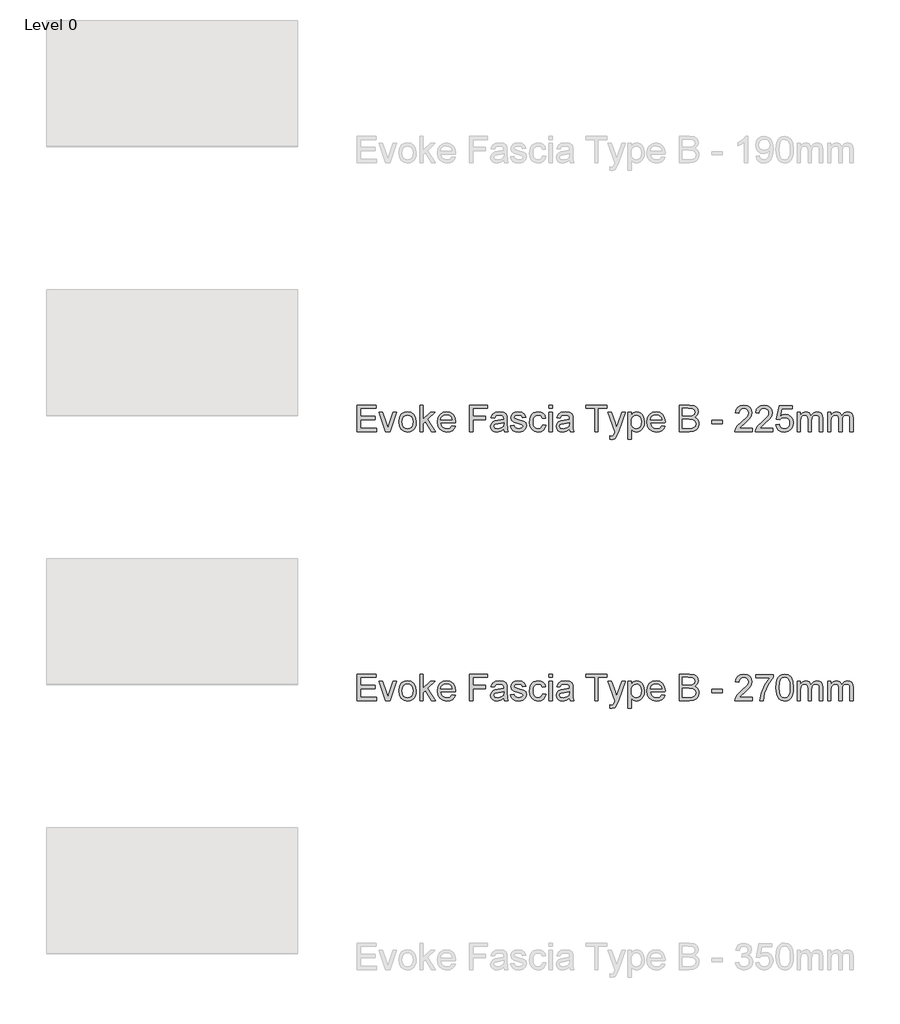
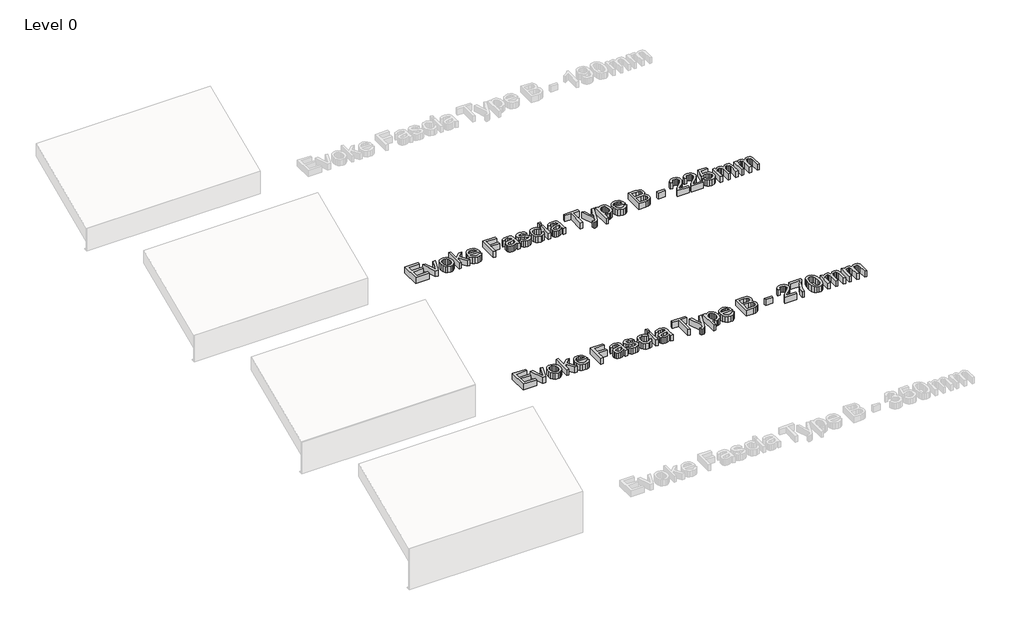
# One storey, part 9 of 13: 2 proxies.
"""IFC4 building model written with IfcOpenShell, lengths in millimetres."""

import ifcopenshell
import ifcopenshell.guid

model = None  # the IFC model being written
_history = None  # IfcOwnerHistory: only IFC2X3 demands one
_inside = {}  # id of a spatial element -> (the spatial element, [elements in it])
_under = {}  # id of a project, library or spatial element -> (it, [spatial elements below it])
_declared = {}  # id of a project -> (the project, [libraries it declares])
_typed = {}  # id of a type object -> (the type object, [elements of that type])
_made_of = {}  # id of a material, layer set ... -> (it, [elements and type objects made of it])


def new_model(schema):
    """Start an empty IFC model of exactly this schema.

    Asked for "IFC4X3", IfcOpenShell would pick the latest addendum, in which some entities
    have other attributes; the version numbers below select the first issue.
    IFC2X3 requires an IfcOwnerHistory on every rooted entity: one is made here for all.
    """
    global model, _history
    if schema == "IFC4X3":
        model = ifcopenshell.file(schema_version=(4, 3, 0, 0))
    else:
        model = ifcopenshell.file(schema=schema)
    _inside.clear()
    _under.clear()
    _declared.clear()
    _typed.clear()
    _made_of.clear()
    _history = None
    if model.schema == "IFC2X3":
        org = make("IfcOrganization", Name="unknown")
        user = make(
            "IfcPersonAndOrganization",
            ThePerson=make("IfcPerson", FamilyName="unknown"),
            TheOrganization=org,
        )
        app = make(
            "IfcApplication",
            ApplicationDeveloper=org,
            Version="unknown",
            ApplicationFullName="unknown",
            ApplicationIdentifier="unknown",
        )
        _history = make(
            "IfcOwnerHistory",
            OwningUser=user,
            OwningApplication=app,
            ChangeAction="ADDED",
            CreationDate=0,
        )
    return model


def make(cls, **values):
    """One entity of the class cls with the attributes given. An attribute that is None is left unset."""
    return model.create_entity(
        cls, **{name: value for name, value in values.items() if value is not None}
    )


def rooted(cls, **values):
    """An entity with a GlobalId (a new one), such as an element, a storey or a relation."""
    return make(cls, GlobalId=ifcopenshell.guid.new(), OwnerHistory=_history, **values)


def si_unit(unit_type, name, prefix=None):
    """IfcSIUnit, for example si_unit("LENGTHUNIT", "METRE", prefix="MILLI")."""
    return make("IfcSIUnit", UnitType=unit_type, Prefix=prefix, Name=name)


def assignment(units):
    """IfcUnitAssignment: the units of a project."""
    return None if units is None else make("IfcUnitAssignment", Units=units)


def point(xyz):
    """IfcCartesianPoint."""
    return None if xyz is None else make("IfcCartesianPoint", Coordinates=xyz)


def direction(xyz):
    """IfcDirection."""
    return None if xyz is None else make("IfcDirection", DirectionRatios=xyz)


def frame(location, z_axis=None, x_axis=None):
    """IfcAxis2Placement3D, a coordinate frame: its origin and axes. An axis left out is left unset."""
    return make(
        "IfcAxis2Placement3D",
        Location=point(location),
        Axis=direction(z_axis),
        RefDirection=direction(x_axis),
    )


def origin():
    """The frame at (0, 0, 0) with its axes left unset."""
    return frame((0.0, 0.0, 0.0))


def origin_with_axes():
    """The frame at (0, 0, 0) with the z axis (0, 0, 1) and the x axis (1, 0, 0) written out."""
    return frame((0.0, 0.0, 0.0), z_axis=(0.0, 0.0, 1.0), x_axis=(1.0, 0.0, 0.0))


def place(relative_to, where):
    """IfcLocalPlacement: puts the frame where relative to a parent placement (None: the world)."""
    return make(
        "IfcLocalPlacement", PlacementRelTo=relative_to, RelativePlacement=where
    )


def context(
    kind, dimensions, precision=None, world=None, true_north=None, identifier=None
):
    """IfcGeometricRepresentationContext, for example the 3D "Model" context."""
    return make(
        "IfcGeometricRepresentationContext",
        ContextIdentifier=identifier,
        ContextType=kind,
        CoordinateSpaceDimension=dimensions,
        Precision=precision,
        WorldCoordinateSystem=world,
        TrueNorth=true_north,
    )


def project(units=None, contexts=None):
    """IfcProject with its units and contexts."""
    return rooted(
        "IfcProject",
        Name="project",
        RepresentationContexts=contexts,
        UnitsInContext=assignment(units),
    )


def spatial(cls, under=None, at=None, **own):
    """A site, building, storey or space (cls), placed at a placement, below another one or the project."""
    s = rooted(cls, ObjectPlacement=at, **own)
    if under is not None:
        _under.setdefault(under.id(), (under, []))[1].append(s)
    return s


def polyline(points):
    """IfcPolyline through the points."""
    return make("IfcPolyline", Points=[point(p) for p in points])


def outline(outer, holes=None, kind="AREA"):
    """IfcArbitraryClosedProfileDef: a profile drawn as a closed curve; with holes, ...WithVoids."""
    if holes is None:
        return make("IfcArbitraryClosedProfileDef", ProfileType=kind, OuterCurve=outer)
    return make(
        "IfcArbitraryProfileDefWithVoids",
        ProfileType=kind,
        OuterCurve=outer,
        InnerCurves=holes,
    )


def extrude(swept, where, along, depth):
    """IfcExtrudedAreaSolid: the profile swept, set in the frame where, extruded along a direction by depth."""
    return make(
        "IfcExtrudedAreaSolid",
        SweptArea=swept,
        Position=where,
        ExtrudedDirection=direction(along),
        Depth=depth,
    )


def shape(context_of_items, identifier, shape_type, items):
    """IfcShapeRepresentation: the items that make up one representation, for example the "Body"."""
    return make(
        "IfcShapeRepresentation",
        ContextOfItems=context_of_items,
        RepresentationIdentifier=identifier,
        RepresentationType=shape_type,
        Items=items,
    )


def made_of(thing, what):
    """Note that an element or type object is made of a material, layer set ...; save() writes the relation."""
    if what is not None:
        _made_of.setdefault(what.id(), (what, []))[1].append(thing)
    return thing


def element(
    cls,
    number,
    at=None,
    inside=None,
    cuts=None,
    type_object=None,
    material=None,
    context=None,
    identifier="Body",
    shape_type=None,
    held_by="IfcProductDefinitionShape",
    body=None,
    shapes=None,
    **own,
):
    """One element of the class cls, such as IfcWall. Its Tag is "e" and its number.

    at: its placement. inside: the storey or other place that contains it. cuts: it is an
    opening in that element (IfcRelVoidsElement). A single representation is given by context,
    identifier, shape_type and body (its items); several are given by shapes. held_by: the class
    of the entity that holds the representations. save() writes the other relations.
    """
    e = rooted(cls, Tag="e%d" % number, ObjectPlacement=at, **own)
    if body is not None:
        shapes = [shape(context, identifier, shape_type, body)]
    if shapes is not None:
        e.Representation = make(held_by, Representations=shapes)
    if inside is not None:
        _inside.setdefault(inside.id(), (inside, []))[1].append(e)
    if cuts is not None:
        rooted(
            "IfcRelVoidsElement", RelatingBuildingElement=cuts, RelatedOpeningElement=e
        )
    if type_object is not None:
        _typed.setdefault(type_object.id(), (type_object, []))[1].append(e)
    return made_of(e, material)


def aggregate(whole, parts):
    """IfcRelAggregates: a whole, such as a stair, and the parts it consists of."""
    return rooted("IfcRelAggregates", RelatingObject=whole, RelatedObjects=parts)


def save(model, path):
    """Write the relations noted so far, then the file.

    IfcRelAggregates (storeys below a building ...), IfcRelContainedInSpatialStructure (elements
    in a storey), IfcRelDefinesByType, IfcRelAssociatesMaterial and IfcRelDeclares: one each for
    every whole, place, type object, material and project.
    """
    for whole, parts in _under.values():
        aggregate(whole, parts)
    for where, things in _inside.values():
        rooted(
            "IfcRelContainedInSpatialStructure",
            RelatedElements=things,
            RelatingStructure=where,
        )
    for kind, things in _typed.values():
        rooted("IfcRelDefinesByType", RelatedObjects=things, RelatingType=kind)
    for what, things in _made_of.values():
        rooted("IfcRelAssociatesMaterial", RelatedObjects=things, RelatingMaterial=what)
    for by, libraries in _declared.values():
        rooted("IfcRelDeclares", RelatingContext=by, RelatedDefinitions=libraries)
    model.write(path)


model = new_model("IFC4")

# Units and contexts
model_context = context("Model", 3, world=origin())
ifc_project = project(units=[si_unit("LENGTHUNIT", "METRE", prefix="MILLI")], contexts=[model_context])

# Site, building, storey
site = spatial("IfcSite", under=ifc_project)
building = spatial("IfcBuilding", under=site)
storey = spatial("IfcBuildingStorey", under=building, Name="Level 0", Elevation=0.0)

# Proxies
placement = place(None, origin())
element("IfcBuildingElementProxy", 1, Name="150mm Arial", ObjectType="150mm Arial", at=placement, inside=storey, context=model_context, shape_type="SweptSolid", body=[
    extrude(outline(polyline([(5568.7201043, 4360.6682311), (5568.7201043, 4508.3605388), (5674.8739504, 4508.3605388), (5674.8739504, 4489.8990003), (5587.1816427, 4489.8990003), (5587.1816427, 4446.0528465), (5670.2585658, 4446.0528465), (5670.2585658, 4427.591308), (5587.1816427, 4427.591308), (5587.1816427, 4379.1297695), (5677.1816427, 4379.1297695), (5677.1816427, 4360.6682311), (5568.7201043, 4360.6682311)])), origin_with_axes(), (0.0, 0.0, 1.0), 50.0),
    extrude(outline(polyline([(5729.176835, 4360.6682311), (5691.0277966, 4469.1297695), (5710.5710658, 4469.1297695), (5733.6840466, 4404.153808), (5740.6431812, 4382.3028465), (5747.458085, 4402.9278465), (5770.7152966, 4469.1297695), (5790.2585658, 4469.1297695), (5752.5782774, 4360.6682311), (5729.176835, 4360.6682311)])), origin_with_axes(), (0.0, 0.0, 1.0), 50.0),
    extrude(outline(polyline([(5801.7970274, 4414.8990003), (5805.7904168, 4441.0498416), (5817.770585, 4459.4302503), (5832.5722677, 4468.435659), (5850.2946235, 4471.4374618), (5869.6891548, 4467.7821133), (5885.1804408, 4456.8160676), (5895.3351884, 4439.4047094), (5898.7201043, 4416.4134234), (5897.22371, 4397.762582), (5892.7345274, 4383.5648657), (5885.3832653, 4372.9323537), (5875.3006331, 4364.9771253), (5863.3249721, 4360.0146854), (5850.2946235, 4358.3605388), (5830.6657173, 4362.0023657), (5815.19246, 4372.9278465), (5805.1458855, 4390.7042888), (5801.7970274, 4414.8990003)]), holes=[polyline([(5820.2585658, 4414.935058), (5822.3949841, 4398.2268248), (5828.8042389, 4386.3232791), (5838.4496716, 4379.1973777), (5850.2946235, 4376.8220772), (5862.0854889, 4379.2108993), (5871.7128927, 4386.3773657), (5878.1221475, 4398.4386638), (5880.2585658, 4415.5119811), (5878.1086259, 4431.7334354), (5871.6588062, 4443.4747215), (5862.0178807, 4450.6006229), (5850.2946235, 4452.9759234), (5838.4496716, 4450.6096373), (5828.8042389, 4443.5107791), (5822.3949841, 4431.6342767), (5820.2585658, 4414.935058)])]), origin_with_axes(), (0.0, 0.0, 1.0), 50.0),
    extrude(outline(polyline([(5919.489335, 4360.6682311), (5919.489335, 4508.3605388), (5937.9508735, 4508.3605388), (5937.9508735, 4428.997558), (5979.3451043, 4469.1297695), (6004.8739504, 4469.1297695), (5962.974912, 4428.4927503), (6007.1816427, 4360.6682311), (5985.6191427, 4360.6682311), (5949.7417389, 4415.6562118), (5937.9508735, 4404.2259234), (5937.9508735, 4360.6682311), (5919.489335, 4360.6682311)])), origin_with_axes(), (0.0, 0.0, 1.0), 50.0),
    extrude(outline(polyline([(6099.2729889, 4392.9759234), (6117.3739504, 4390.6682311), (6110.8520153, 4377.029409), (6100.4448639, 4366.8340965), (6086.3868711, 4360.4789282), (6068.912412, 4358.3605388), (6047.2507533, 4362.0158873), (6030.583085, 4372.981933), (6019.9550802, 4390.5465364), (6016.412412, 4413.997558), (6019.9911379, 4438.2373416), (6030.7273158, 4456.3653465), (6047.1696235, 4467.669433), (6067.8667389, 4471.4374618), (6087.919323, 4467.6784474), (6103.94246, 4456.4014041), (6114.4487701, 4438.309457), (6117.9508735, 4414.1057311), (6117.8427004, 4409.1297695), (6034.8739504, 4409.1297695), (6038.0695634, 4395.310659), (6045.4929408, 4385.1514041), (6056.2065826, 4378.904409), (6069.2729889, 4376.8220772), (6087.3739504, 4380.6802503), (6099.2729889, 4392.9759234)]), holes=[polyline([(6034.8739504, 4427.591308), (6099.489335, 4427.591308), (6096.9923399, 4437.3449138), (6092.0975081, 4444.3220772), (6081.334287, 4450.8124618), (6067.7946235, 4452.9759234), (6055.3502124, 4451.2496614), (6045.0602485, 4446.0708753), (6037.9073038, 4437.9984594), (6034.8739504, 4427.591308)])]), origin_with_axes(), (0.0, 0.0, 1.0), 50.0),
    extrude(outline(polyline([(6196.412412, 4360.6682311), (6196.412412, 4508.3605388), (6295.6431812, 4508.3605388), (6295.6431812, 4489.8990003), (6214.8739504, 4489.8990003), (6214.8739504, 4446.0528465), (6284.1047197, 4446.0528465), (6284.1047197, 4427.591308), (6214.8739504, 4427.591308), (6214.8739504, 4360.6682311), (6196.412412, 4360.6682311)])), origin_with_axes(), (0.0, 0.0, 1.0), 50.0),
    extrude(outline(polyline([(6387.9508735, 4374.5143849), (6370.0482293, 4362.0023657), (6350.270585, 4358.3605388), (6334.8423999, 4360.5510436), (6323.4616908, 4367.122558), (6316.4439624, 4377.1015243), (6314.1047197, 4389.5143849), (6317.6383735, 4404.1177503), (6326.9232293, 4414.7187118), (6339.849912, 4420.7764041), (6355.8234697, 4423.5528465), (6387.8427004, 4429.8990003), (6387.9508735, 4434.0095772), (6386.6798399, 4442.2487599), (6382.8667389, 4447.6393849), (6374.3390947, 4451.6417888), (6362.458085, 4452.9759234), (6343.7802004, 4449.4242407), (6334.8739504, 4436.8220772), (6316.412412, 4439.1297695), (6324.3991908, 4457.1586157), (6340.4809216, 4467.7235195), (6364.8378927, 4471.4374618), (6387.2116908, 4468.1562118), (6399.849912, 4459.9170291), (6405.5109697, 4447.3869811), (6406.412412, 4431.2331349), (6406.412412, 4408.2643849), (6407.349912, 4376.1910676), (6411.0277966, 4360.6682311), (6392.5662581, 4360.6682311), (6387.9508735, 4374.5143849)]), holes=[polyline([(6387.9508735, 4411.4374618), (6358.1672197, 4405.7764041), (6342.2838062, 4402.7836157), (6335.0902966, 4397.9158272), (6332.5662581, 4390.8124618), (6338.0650562, 4380.8244811), (6354.2008735, 4376.8220772), (6372.8787581, 4381.2391445), (6384.9220274, 4391.9302503), (6387.8427004, 4406.2090965), (6387.9508735, 4411.4374618)])]), origin_with_axes(), (0.0, 0.0, 1.0), 50.0),
    extrude(outline(polyline([(6424.8739504, 4392.9759234), (6443.3354889, 4395.2836157), (6446.2471475, 4387.3869811), (6451.881162, 4381.5816926), (6471.4604889, 4376.8220772), (6490.2826043, 4381.185058), (6496.412412, 4391.4254426), (6490.2465466, 4399.7187118), (6471.2441427, 4404.9831349), (6443.443662, 4414.0155868), (6431.3102485, 4424.5624618), (6427.1816427, 4439.4542888), (6430.4989504, 4453.2102984), (6439.5494312, 4463.7211157), (6451.28621, 4469.1838561), (6467.1696235, 4471.4374618), (6489.6335658, 4467.8136638), (6503.912412, 4458.0059715), (6510.2585658, 4441.4374618), (6491.7970274, 4439.1297695), (6484.8559216, 4449.3160676), (6468.6119312, 4452.9759234), (6450.943662, 4449.4783272), (6445.6431812, 4441.3292888), (6447.8427004, 4435.9566926), (6454.7297197, 4431.8821734), (6470.631162, 4427.9518849), (6497.7285177, 4419.2619811), (6510.3126524, 4409.4182311), (6514.8739504, 4393.372558), (6509.5193831, 4375.7042888), (6494.068662, 4362.8857791), (6471.208085, 4358.3605388), (6452.5933014, 4360.5420291), (6439.0085658, 4367.0865003), (6429.9400562, 4377.9218368), (6424.8739504, 4392.9759234)])), origin_with_axes(), (0.0, 0.0, 1.0), 50.0),
    extrude(outline(polyline([(6604.8739504, 4399.8990003), (6623.3354889, 4397.591308), (6618.1882533, 4381.1715364), (6608.5157774, 4368.763183), (6595.2285177, 4360.9611998), (6579.2369312, 4358.3605388), (6559.5990105, 4361.9888441), (6544.2429408, 4372.8737599), (6534.3315826, 4390.5375219), (6531.0277966, 4414.5023657), (6536.6708254, 4445.169433), (6543.7922197, 4456.6673296), (6553.8703447, 4464.8749618), (6565.9271355, 4469.7968368), (6578.9845274, 4471.4374618), (6594.5839865, 4469.1838561), (6607.0554408, 4462.4230388), (6616.0022557, 4451.5155868), (6621.0277966, 4436.8220772), (6602.5662581, 4434.5143849), (6594.0025562, 4448.3425099), (6579.1287581, 4452.9759234), (6567.1981692, 4450.6952743), (6557.7285177, 4443.8533272), (6551.5491307, 4432.0804907), (6549.489335, 4415.0071734), (6551.5040586, 4397.7039883), (6557.5482293, 4385.8905868), (6566.8466067, 4379.0892046), (6578.6239504, 4376.8220772), (6588.1837461, 4378.2373416), (6596.021787, 4382.4831349), (6601.7234096, 4389.6676301), (6604.8739504, 4399.8990003)])), origin_with_axes(), (0.0, 0.0, 1.0), 50.0),
    extrude(outline(polyline([(6639.489335, 4489.8990003), (6639.489335, 4508.3605388), (6657.9508735, 4508.3605388), (6657.9508735, 4489.8990003), (6639.489335, 4489.8990003)])), origin_with_axes(), (0.0, 0.0, 1.0), 50.0),
    extrude(outline(polyline([(6639.489335, 4360.6682311), (6639.489335, 4469.1297695), (6657.9508735, 4469.1297695), (6657.9508735, 4360.6682311), (6639.489335, 4360.6682311)])), origin_with_axes(), (0.0, 0.0, 1.0), 50.0),
    extrude(outline(polyline([(6754.8739504, 4374.5143849), (6736.9713062, 4362.0023657), (6717.193662, 4358.3605388), (6701.7654769, 4360.5510436), (6690.3847677, 4367.122558), (6683.3670394, 4377.1015243), (6681.0277966, 4389.5143849), (6684.5614504, 4404.1177503), (6693.8463062, 4414.7187118), (6706.7729889, 4420.7764041), (6722.7465466, 4423.5528465), (6754.7657774, 4429.8990003), (6754.8739504, 4434.0095772), (6753.6029168, 4442.2487599), (6749.7898158, 4447.6393849), (6741.2621716, 4451.6417888), (6729.381162, 4452.9759234), (6710.7032774, 4449.4242407), (6701.7970274, 4436.8220772), (6683.3354889, 4439.1297695), (6691.3222677, 4457.1586157), (6707.4039985, 4467.7235195), (6731.7609697, 4471.4374618), (6754.1347677, 4468.1562118), (6766.7729889, 4459.9170291), (6772.4340466, 4447.3869811), (6773.3354889, 4431.2331349), (6773.3354889, 4408.2643849), (6774.2729889, 4376.1910676), (6777.9508735, 4360.6682311), (6759.489335, 4360.6682311), (6754.8739504, 4374.5143849)]), holes=[polyline([(6754.8739504, 4411.4374618), (6725.0902966, 4405.7764041), (6709.2068831, 4402.7836157), (6702.0133735, 4397.9158272), (6699.489335, 4390.8124618), (6704.9881331, 4380.8244811), (6721.1239504, 4376.8220772), (6739.801835, 4381.2391445), (6751.8451043, 4391.9302503), (6754.7657774, 4406.2090965), (6754.8739504, 4411.4374618)])]), origin_with_axes(), (0.0, 0.0, 1.0), 50.0),
    extrude(outline(polyline([(6895.6431812, 4360.6682311), (6895.6431812, 4489.8990003), (6847.1816427, 4489.8990003), (6847.1816427, 4508.3605388), (6962.5662581, 4508.3605388), (6962.5662581, 4489.8990003), (6914.1047197, 4489.8990003), (6914.1047197, 4360.6682311), (6895.6431812, 4360.6682311)])), origin_with_axes(), (0.0, 0.0, 1.0), 50.0),
    extrude(outline(polyline([(6981.0277966, 4319.1297695), (6978.7201043, 4336.9062118), (6988.0951043, 4335.2836157), (6996.8571235, 4337.3208753), (7002.2297197, 4342.9999618), (7007.2777966, 4356.5937118), (7008.7201043, 4361.0648657), (6969.489335, 4469.1297695), (6988.9604889, 4469.1297695), (7009.7657774, 4408.9134234), (7017.0133735, 4384.8268849), (7024.2609697, 4406.1009234), (7045.6431812, 4469.1297695), (7064.9701043, 4469.1297695), (7027.2177004, 4358.0720772), (7017.4100081, 4333.9855388), (7006.7008735, 4320.9687118), (6992.3138543, 4316.8220772), (6981.0277966, 4319.1297695)])), origin_with_axes(), (0.0, 0.0, 1.0), 50.0),
    extrude(outline(polyline([(7080.2585658, 4319.1297695), (7080.2585658, 4469.1297695), (7098.7201043, 4469.1297695), (7098.7201043, 4451.028808), (7111.4845274, 4466.3352984), (7128.7201043, 4471.4374618), (7141.2050802, 4469.6526061), (7152.1215466, 4464.2980388), (7161.0097677, 4455.6982791), (7167.4100081, 4444.1778465), (7172.5662581, 4415.7283272), (7171.1104288, 4399.9395652), (7166.7429408, 4385.8184715), (7159.6035177, 4374.0816926), (7149.8318831, 4365.4458753), (7138.451174, 4360.1318729), (7126.4845274, 4358.3605388), (7110.4208254, 4363.1021253), (7098.7201043, 4375.091308), (7098.7201043, 4319.1297695), (7080.2585658, 4319.1297695)]), holes=[polyline([(7098.7201043, 4414.0336157), (7100.716799, 4397.4831349), (7106.7068831, 4385.9086157), (7115.5455249, 4379.0937118), (7126.0878927, 4376.8220772), (7136.8015346, 4379.1748416), (7145.865537, 4386.2331349), (7152.044924, 4398.231332), (7154.1047197, 4415.403808), (7152.0945033, 4431.8641445), (7146.0638543, 4443.6009234), (7137.2387341, 4450.6321734), (7126.8451043, 4452.9759234), (7116.4109096, 4450.4834354), (7107.2477485, 4443.0059715), (7100.8520153, 4430.7779066), (7098.7201043, 4414.0336157)])]), origin_with_axes(), (0.0, 0.0, 1.0), 50.0),
    extrude(outline(polyline([(7269.2729889, 4392.9759234), (7287.3739504, 4390.6682311), (7280.8520153, 4377.029409), (7270.4448639, 4366.8340965), (7256.3868711, 4360.4789282), (7238.912412, 4358.3605388), (7217.2507533, 4362.0158873), (7200.583085, 4372.981933), (7189.9550802, 4390.5465364), (7186.412412, 4413.997558), (7189.9911379, 4438.2373416), (7200.7273158, 4456.3653465), (7217.1696235, 4467.669433), (7237.8667389, 4471.4374618), (7257.919323, 4467.6784474), (7273.94246, 4456.4014041), (7284.4487701, 4438.309457), (7287.9508735, 4414.1057311), (7287.8427004, 4409.1297695), (7204.8739504, 4409.1297695), (7208.0695634, 4395.310659), (7215.4929408, 4385.1514041), (7226.2065826, 4378.904409), (7239.2729889, 4376.8220772), (7257.3739504, 4380.6802503), (7269.2729889, 4392.9759234)]), holes=[polyline([(7204.8739504, 4427.591308), (7269.489335, 4427.591308), (7266.9923399, 4437.3449138), (7262.0975081, 4444.3220772), (7251.334287, 4450.8124618), (7237.7946235, 4452.9759234), (7225.3502124, 4451.2496614), (7215.0602485, 4446.0708753), (7207.9073038, 4437.9984594), (7204.8739504, 4427.591308)])]), origin_with_axes(), (0.0, 0.0, 1.0), 50.0),
    extrude(outline(polyline([(7366.412412, 4360.6682311), (7366.412412, 4508.3605388), (7422.770585, 4508.3605388), (7450.3727485, 4504.0155868), (7459.6485899, 4498.5032671), (7466.6708254, 4490.6562118), (7472.5662581, 4471.7619811), (7467.6083254, 4454.5083753), (7452.6263543, 4441.4374618), (7463.0875923, 4435.9747215), (7470.81746, 4427.6634234), (7475.5905971, 4417.0534474), (7477.1816427, 4404.6946734), (7472.8366908, 4384.8449138), (7462.0734697, 4370.7102984), (7446.0097677, 4363.2102984), (7422.3378927, 4360.6682311), (7366.412412, 4360.6682311)]), holes=[polyline([(7384.8739504, 4448.3605388), (7418.5878927, 4448.3605388), (7438.2753927, 4449.9470772), (7450.1203447, 4456.7800099), (7454.1047197, 4468.8052503), (7450.3907774, 4480.8485195), (7439.7537581, 4487.9699138), (7416.0277966, 4489.8990003), (7384.8739504, 4489.8990003), (7384.8739504, 4448.3605388)]), polyline([(7384.8739504, 4379.1297695), (7422.7345274, 4379.1297695), (7436.4364504, 4379.8509234), (7448.0289985, 4383.8713561), (7455.709287, 4392.0744811), (7458.7201043, 4404.5143849), (7455.1864504, 4418.8653465), (7443.7381331, 4427.4290484), (7420.9316427, 4429.8990003), (7384.8739504, 4429.8990003), (7384.8739504, 4379.1297695)])]), origin_with_axes(), (0.0, 0.0, 1.0), 50.0),
    extrude(outline(polyline([(7548.7201043, 4404.5143849), (7548.7201043, 4422.9759234), (7606.412412, 4422.9759234), (7606.412412, 4404.5143849), (7548.7201043, 4404.5143849)])), origin_with_axes(), (0.0, 0.0, 1.0), 50.0),
    extrude(outline(polyline([(7774.8739504, 4379.1297695), (7774.8739504, 4360.6682311), (7677.9508735, 4360.6682311), (7679.9340466, 4373.3965965), (7691.1479889, 4392.9939522), (7714.2609697, 4414.3941926), (7746.1359697, 4445.1514041), (7752.1125322, 4455.7523657), (7754.1047197, 4466.0648657), (7752.2252124, 4475.3091566), (7746.5866908, 4482.9939522), (7737.919323, 4488.1727383), (7726.9532774, 4489.8990003), (7715.4373519, 4488.2133032), (7706.490537, 4483.1562118), (7700.716799, 4475.1243609), (7698.7201043, 4464.5143849), (7680.2585658, 4466.8220772), (7684.7342269, 4484.6796493), (7694.41121, 4497.7235195), (7708.7847076, 4505.701284), (7727.349912, 4508.3605388), (7746.0503326, 4505.403808), (7760.396787, 4496.5336157), (7769.5238903, 4483.2824138), (7772.5662581, 4467.1826541), (7769.2850081, 4449.6766445), (7758.3775562, 4431.575683), (7731.9292389, 4406.2812118), (7710.6912581, 4388.5227984), (7702.3619312, 4379.1297695), (7774.8739504, 4379.1297695)])), origin_with_axes(), (0.0, 0.0, 1.0), 50.0),
    extrude(outline(polyline([(7887.9508735, 4379.1297695), (7887.9508735, 4360.6682311), (7791.0277966, 4360.6682311), (7793.0109697, 4373.3965965), (7804.224912, 4392.9939522), (7827.3378927, 4414.3941926), (7859.2128927, 4445.1514041), (7865.1894552, 4455.7523657), (7867.1816427, 4466.0648657), (7865.3021355, 4475.3091566), (7859.6636139, 4482.9939522), (7850.9962461, 4488.1727383), (7840.0302004, 4489.8990003), (7828.5142749, 4488.2133032), (7819.56746, 4483.1562118), (7813.7937221, 4475.1243609), (7811.7970274, 4464.5143849), (7793.3354889, 4466.8220772), (7797.8111499, 4484.6796493), (7807.4881331, 4497.7235195), (7821.8616307, 4505.701284), (7840.426835, 4508.3605388), (7859.1272557, 4505.403808), (7873.47371, 4496.5336157), (7882.6008134, 4483.2824138), (7885.6431812, 4467.1826541), (7882.3619312, 4449.6766445), (7871.4544793, 4431.575683), (7845.006162, 4406.2812118), (7823.7681812, 4388.5227984), (7815.4388543, 4379.1297695), (7887.9508735, 4379.1297695)])), origin_with_axes(), (0.0, 0.0, 1.0), 50.0),
    extrude(outline(polyline([(7906.412412, 4399.8990003), (7924.8739504, 4402.2066926), (7928.2633735, 4391.1234594), (7934.176835, 4383.1862599), (7942.5872918, 4378.4131229), (7953.4677004, 4376.8220772), (7966.7008735, 4379.0351181), (7976.6167389, 4385.6742407), (7982.8096475, 4395.9732191), (7984.8739504, 4409.1658272), (7982.9403567, 4421.5877022), (7977.1395754, 4431.0889041), (7967.4265346, 4437.1195532), (7953.756162, 4439.1297695), (7937.5482293, 4435.9206349), (7927.1816427, 4427.591308), (7908.7201043, 4429.8990003), (7924.8739504, 4506.0528465), (7996.412412, 4506.0528465), (7996.412412, 4487.591308), (7939.801835, 4487.591308), (7931.9052004, 4446.9182311), (7945.0933014, 4454.9230388), (7958.912412, 4457.591308), (7976.1615105, 4454.2830147), (7990.4809216, 4444.3581349), (8000.1218471, 4429.231933), (8003.3354889, 4410.3196734), (8000.4418591, 4391.8581349), (7991.7609697, 4376.0648657), (7975.1383735, 4362.7866205), (7953.395585, 4358.3605388), (7935.263073, 4361.2045892), (7920.81746, 4369.7367407), (7910.9151163, 4382.9654066), (7906.412412, 4399.8990003)])), origin_with_axes(), (0.0, 0.0, 1.0), 50.0),
    extrude(outline(polyline([(8024.1047197, 4360.6682311), (8024.1047197, 4469.1297695), (8042.5662581, 4469.1297695), (8042.5662581, 4451.2812118), (8055.2585658, 4465.9026061), (8073.3234697, 4471.4374618), (8083.5908975, 4470.0267046), (8091.8210658, 4465.794433), (8101.989335, 4449.9831349), (8116.3943831, 4466.0738801), (8134.5854889, 4471.4374618), (8148.4631932, 4469.2063921), (8158.7261139, 4462.513183), (8165.0677605, 4451.177546), (8167.1816427, 4435.0191926), (8167.1816427, 4360.6682311), (8148.7201043, 4360.6682311), (8148.7201043, 4427.0865003), (8147.0073639, 4442.5011638), (8140.8054408, 4450.091308), (8130.2585658, 4452.9759234), (8120.2570634, 4451.1279666), (8112.1035177, 4445.5840965), (8106.6813423, 4435.965707), (8104.8739504, 4421.8941926), (8104.8739504, 4360.6682311), (8086.412412, 4360.6682311), (8086.412412, 4429.1417888), (8082.1395754, 4447.0264041), (8076.5010538, 4451.4885436), (8068.131162, 4452.9759234), (8054.4652966, 4449.0095772), (8045.3787581, 4437.3990003), (8042.5662581, 4415.3677503), (8042.5662581, 4360.6682311), (8024.1047197, 4360.6682311)])), origin_with_axes(), (0.0, 0.0, 1.0), 50.0),
    extrude(outline(polyline([(8194.8739504, 4360.6682311), (8194.8739504, 4469.1297695), (8213.3354889, 4469.1297695), (8213.3354889, 4451.2812118), (8226.0277966, 4465.9026061), (8244.0927004, 4471.4374618), (8254.3601283, 4470.0267046), (8262.5902966, 4465.794433), (8272.7585658, 4449.9831349), (8287.1636139, 4466.0738801), (8305.3547197, 4471.4374618), (8319.232424, 4469.2063921), (8329.4953447, 4462.513183), (8335.8369913, 4451.177546), (8337.9508735, 4435.0191926), (8337.9508735, 4360.6682311), (8319.489335, 4360.6682311), (8319.489335, 4427.0865003), (8317.7765947, 4442.5011638), (8311.5746716, 4450.091308), (8301.0277966, 4452.9759234), (8291.0262942, 4451.1279666), (8282.8727485, 4445.5840965), (8277.450573, 4435.965707), (8275.6431812, 4421.8941926), (8275.6431812, 4360.6682311), (8257.1816427, 4360.6682311), (8257.1816427, 4429.1417888), (8252.9088062, 4447.0264041), (8247.2702846, 4451.4885436), (8238.9003927, 4452.9759234), (8225.2345274, 4449.0095772), (8216.1479889, 4437.3990003), (8213.3354889, 4415.3677503), (8213.3354889, 4360.6682311), (8194.8739504, 4360.6682311)])), origin_with_axes(), (0.0, 0.0, 1.0), 50.0),
])
element("IfcBuildingElementProxy", 2, Name="150mm Arial", ObjectType="150mm Arial", at=placement, inside=storey, context=model_context, shape_type="SweptSolid", body=[
    extrude(outline(polyline([(5568.7201043, 2860.6682311), (5568.7201043, 3008.3605388), (5674.8739504, 3008.3605388), (5674.8739504, 2989.8990003), (5587.1816427, 2989.8990003), (5587.1816427, 2946.0528465), (5670.2585658, 2946.0528465), (5670.2585658, 2927.591308), (5587.1816427, 2927.591308), (5587.1816427, 2879.1297695), (5677.1816427, 2879.1297695), (5677.1816427, 2860.6682311), (5568.7201043, 2860.6682311)])), origin_with_axes(), (0.0, 0.0, 1.0), 50.0),
    extrude(outline(polyline([(5729.176835, 2860.6682311), (5691.0277966, 2969.1297695), (5710.5710658, 2969.1297695), (5733.6840466, 2904.153808), (5740.6431812, 2882.3028465), (5747.458085, 2902.9278465), (5770.7152966, 2969.1297695), (5790.2585658, 2969.1297695), (5752.5782774, 2860.6682311), (5729.176835, 2860.6682311)])), origin_with_axes(), (0.0, 0.0, 1.0), 50.0),
    extrude(outline(polyline([(5801.7970274, 2914.8990003), (5805.7904168, 2941.0498416), (5817.770585, 2959.4302503), (5832.5722677, 2968.435659), (5850.2946235, 2971.4374618), (5869.6891548, 2967.7821133), (5885.1804408, 2956.8160676), (5895.3351884, 2939.4047094), (5898.7201043, 2916.4134234), (5897.22371, 2897.762582), (5892.7345274, 2883.5648657), (5885.3832653, 2872.9323537), (5875.3006331, 2864.9771253), (5863.3249721, 2860.0146854), (5850.2946235, 2858.3605388), (5830.6657173, 2862.0023657), (5815.19246, 2872.9278465), (5805.1458855, 2890.7042888), (5801.7970274, 2914.8990003)]), holes=[polyline([(5820.2585658, 2914.935058), (5822.3949841, 2898.2268248), (5828.8042389, 2886.3232791), (5838.4496716, 2879.1973777), (5850.2946235, 2876.8220772), (5862.0854889, 2879.2108993), (5871.7128927, 2886.3773657), (5878.1221475, 2898.4386638), (5880.2585658, 2915.5119811), (5878.1086259, 2931.7334354), (5871.6588062, 2943.4747215), (5862.0178807, 2950.6006229), (5850.2946235, 2952.9759234), (5838.4496716, 2950.6096373), (5828.8042389, 2943.5107791), (5822.3949841, 2931.6342767), (5820.2585658, 2914.935058)])]), origin_with_axes(), (0.0, 0.0, 1.0), 50.0),
    extrude(outline(polyline([(5919.489335, 2860.6682311), (5919.489335, 3008.3605388), (5937.9508735, 3008.3605388), (5937.9508735, 2928.997558), (5979.3451043, 2969.1297695), (6004.8739504, 2969.1297695), (5962.974912, 2928.4927503), (6007.1816427, 2860.6682311), (5985.6191427, 2860.6682311), (5949.7417389, 2915.6562118), (5937.9508735, 2904.2259234), (5937.9508735, 2860.6682311), (5919.489335, 2860.6682311)])), origin_with_axes(), (0.0, 0.0, 1.0), 50.0),
    extrude(outline(polyline([(6099.2729889, 2892.9759234), (6117.3739504, 2890.6682311), (6110.8520153, 2877.029409), (6100.4448639, 2866.8340965), (6086.3868711, 2860.4789282), (6068.912412, 2858.3605388), (6047.2507533, 2862.0158873), (6030.583085, 2872.981933), (6019.9550802, 2890.5465364), (6016.412412, 2913.997558), (6019.9911379, 2938.2373416), (6030.7273158, 2956.3653465), (6047.1696235, 2967.669433), (6067.8667389, 2971.4374618), (6087.919323, 2967.6784474), (6103.94246, 2956.4014041), (6114.4487701, 2938.309457), (6117.9508735, 2914.1057311), (6117.8427004, 2909.1297695), (6034.8739504, 2909.1297695), (6038.0695634, 2895.310659), (6045.4929408, 2885.1514041), (6056.2065826, 2878.904409), (6069.2729889, 2876.8220772), (6087.3739504, 2880.6802503), (6099.2729889, 2892.9759234)]), holes=[polyline([(6034.8739504, 2927.591308), (6099.489335, 2927.591308), (6096.9923399, 2937.3449138), (6092.0975081, 2944.3220772), (6081.334287, 2950.8124618), (6067.7946235, 2952.9759234), (6055.3502124, 2951.2496614), (6045.0602485, 2946.0708753), (6037.9073038, 2937.9984594), (6034.8739504, 2927.591308)])]), origin_with_axes(), (0.0, 0.0, 1.0), 50.0),
    extrude(outline(polyline([(6196.412412, 2860.6682311), (6196.412412, 3008.3605388), (6295.6431812, 3008.3605388), (6295.6431812, 2989.8990003), (6214.8739504, 2989.8990003), (6214.8739504, 2946.0528465), (6284.1047197, 2946.0528465), (6284.1047197, 2927.591308), (6214.8739504, 2927.591308), (6214.8739504, 2860.6682311), (6196.412412, 2860.6682311)])), origin_with_axes(), (0.0, 0.0, 1.0), 50.0),
    extrude(outline(polyline([(6387.9508735, 2874.5143849), (6370.0482293, 2862.0023657), (6350.270585, 2858.3605388), (6334.8423999, 2860.5510436), (6323.4616908, 2867.122558), (6316.4439624, 2877.1015243), (6314.1047197, 2889.5143849), (6317.6383735, 2904.1177503), (6326.9232293, 2914.7187118), (6339.849912, 2920.7764041), (6355.8234697, 2923.5528465), (6387.8427004, 2929.8990003), (6387.9508735, 2934.0095772), (6386.6798399, 2942.2487599), (6382.8667389, 2947.6393849), (6374.3390947, 2951.6417888), (6362.458085, 2952.9759234), (6343.7802004, 2949.4242407), (6334.8739504, 2936.8220772), (6316.412412, 2939.1297695), (6324.3991908, 2957.1586157), (6340.4809216, 2967.7235195), (6364.8378927, 2971.4374618), (6387.2116908, 2968.1562118), (6399.849912, 2959.9170291), (6405.5109697, 2947.3869811), (6406.412412, 2931.2331349), (6406.412412, 2908.2643849), (6407.349912, 2876.1910676), (6411.0277966, 2860.6682311), (6392.5662581, 2860.6682311), (6387.9508735, 2874.5143849)]), holes=[polyline([(6387.9508735, 2911.4374618), (6358.1672197, 2905.7764041), (6342.2838062, 2902.7836157), (6335.0902966, 2897.9158272), (6332.5662581, 2890.8124618), (6338.0650562, 2880.8244811), (6354.2008735, 2876.8220772), (6372.8787581, 2881.2391445), (6384.9220274, 2891.9302503), (6387.8427004, 2906.2090965), (6387.9508735, 2911.4374618)])]), origin_with_axes(), (0.0, 0.0, 1.0), 50.0),
    extrude(outline(polyline([(6424.8739504, 2892.9759234), (6443.3354889, 2895.2836157), (6446.2471475, 2887.3869811), (6451.881162, 2881.5816926), (6471.4604889, 2876.8220772), (6490.2826043, 2881.185058), (6496.412412, 2891.4254426), (6490.2465466, 2899.7187118), (6471.2441427, 2904.9831349), (6443.443662, 2914.0155868), (6431.3102485, 2924.5624618), (6427.1816427, 2939.4542888), (6430.4989504, 2953.2102984), (6439.5494312, 2963.7211157), (6451.28621, 2969.1838561), (6467.1696235, 2971.4374618), (6489.6335658, 2967.8136638), (6503.912412, 2958.0059715), (6510.2585658, 2941.4374618), (6491.7970274, 2939.1297695), (6484.8559216, 2949.3160676), (6468.6119312, 2952.9759234), (6450.943662, 2949.4783272), (6445.6431812, 2941.3292888), (6447.8427004, 2935.9566926), (6454.7297197, 2931.8821734), (6470.631162, 2927.9518849), (6497.7285177, 2919.2619811), (6510.3126524, 2909.4182311), (6514.8739504, 2893.372558), (6509.5193831, 2875.7042888), (6494.068662, 2862.8857791), (6471.208085, 2858.3605388), (6452.5933014, 2860.5420291), (6439.0085658, 2867.0865003), (6429.9400562, 2877.9218368), (6424.8739504, 2892.9759234)])), origin_with_axes(), (0.0, 0.0, 1.0), 50.0),
    extrude(outline(polyline([(6604.8739504, 2899.8990003), (6623.3354889, 2897.591308), (6618.1882533, 2881.1715364), (6608.5157774, 2868.763183), (6595.2285177, 2860.9611998), (6579.2369312, 2858.3605388), (6559.5990105, 2861.9888441), (6544.2429408, 2872.8737599), (6534.3315826, 2890.5375219), (6531.0277966, 2914.5023657), (6536.6708254, 2945.169433), (6543.7922197, 2956.6673296), (6553.8703447, 2964.8749618), (6565.9271355, 2969.7968368), (6578.9845274, 2971.4374618), (6594.5839865, 2969.1838561), (6607.0554408, 2962.4230388), (6616.0022557, 2951.5155868), (6621.0277966, 2936.8220772), (6602.5662581, 2934.5143849), (6594.0025562, 2948.3425099), (6579.1287581, 2952.9759234), (6567.1981692, 2950.6952743), (6557.7285177, 2943.8533272), (6551.5491307, 2932.0804907), (6549.489335, 2915.0071734), (6551.5040586, 2897.7039883), (6557.5482293, 2885.8905868), (6566.8466067, 2879.0892046), (6578.6239504, 2876.8220772), (6588.1837461, 2878.2373416), (6596.021787, 2882.4831349), (6601.7234096, 2889.6676301), (6604.8739504, 2899.8990003)])), origin_with_axes(), (0.0, 0.0, 1.0), 50.0),
    extrude(outline(polyline([(6639.489335, 2989.8990003), (6639.489335, 3008.3605388), (6657.9508735, 3008.3605388), (6657.9508735, 2989.8990003), (6639.489335, 2989.8990003)])), origin_with_axes(), (0.0, 0.0, 1.0), 50.0),
    extrude(outline(polyline([(6639.489335, 2860.6682311), (6639.489335, 2969.1297695), (6657.9508735, 2969.1297695), (6657.9508735, 2860.6682311), (6639.489335, 2860.6682311)])), origin_with_axes(), (0.0, 0.0, 1.0), 50.0),
    extrude(outline(polyline([(6754.8739504, 2874.5143849), (6736.9713062, 2862.0023657), (6717.193662, 2858.3605388), (6701.7654769, 2860.5510436), (6690.3847677, 2867.122558), (6683.3670394, 2877.1015243), (6681.0277966, 2889.5143849), (6684.5614504, 2904.1177503), (6693.8463062, 2914.7187118), (6706.7729889, 2920.7764041), (6722.7465466, 2923.5528465), (6754.7657774, 2929.8990003), (6754.8739504, 2934.0095772), (6753.6029168, 2942.2487599), (6749.7898158, 2947.6393849), (6741.2621716, 2951.6417888), (6729.381162, 2952.9759234), (6710.7032774, 2949.4242407), (6701.7970274, 2936.8220772), (6683.3354889, 2939.1297695), (6691.3222677, 2957.1586157), (6707.4039985, 2967.7235195), (6731.7609697, 2971.4374618), (6754.1347677, 2968.1562118), (6766.7729889, 2959.9170291), (6772.4340466, 2947.3869811), (6773.3354889, 2931.2331349), (6773.3354889, 2908.2643849), (6774.2729889, 2876.1910676), (6777.9508735, 2860.6682311), (6759.489335, 2860.6682311), (6754.8739504, 2874.5143849)]), holes=[polyline([(6754.8739504, 2911.4374618), (6725.0902966, 2905.7764041), (6709.2068831, 2902.7836157), (6702.0133735, 2897.9158272), (6699.489335, 2890.8124618), (6704.9881331, 2880.8244811), (6721.1239504, 2876.8220772), (6739.801835, 2881.2391445), (6751.8451043, 2891.9302503), (6754.7657774, 2906.2090965), (6754.8739504, 2911.4374618)])]), origin_with_axes(), (0.0, 0.0, 1.0), 50.0),
    extrude(outline(polyline([(6895.6431812, 2860.6682311), (6895.6431812, 2989.8990003), (6847.1816427, 2989.8990003), (6847.1816427, 3008.3605388), (6962.5662581, 3008.3605388), (6962.5662581, 2989.8990003), (6914.1047197, 2989.8990003), (6914.1047197, 2860.6682311), (6895.6431812, 2860.6682311)])), origin_with_axes(), (0.0, 0.0, 1.0), 50.0),
    extrude(outline(polyline([(6981.0277966, 2819.1297695), (6978.7201043, 2836.9062118), (6988.0951043, 2835.2836157), (6996.8571235, 2837.3208753), (7002.2297197, 2842.9999618), (7007.2777966, 2856.5937118), (7008.7201043, 2861.0648657), (6969.489335, 2969.1297695), (6988.9604889, 2969.1297695), (7009.7657774, 2908.9134234), (7017.0133735, 2884.8268849), (7024.2609697, 2906.1009234), (7045.6431812, 2969.1297695), (7064.9701043, 2969.1297695), (7027.2177004, 2858.0720772), (7017.4100081, 2833.9855388), (7006.7008735, 2820.9687118), (6992.3138543, 2816.8220772), (6981.0277966, 2819.1297695)])), origin_with_axes(), (0.0, 0.0, 1.0), 50.0),
    extrude(outline(polyline([(7080.2585658, 2819.1297695), (7080.2585658, 2969.1297695), (7098.7201043, 2969.1297695), (7098.7201043, 2951.028808), (7111.4845274, 2966.3352984), (7128.7201043, 2971.4374618), (7141.2050802, 2969.6526061), (7152.1215466, 2964.2980388), (7161.0097677, 2955.6982791), (7167.4100081, 2944.1778465), (7172.5662581, 2915.7283272), (7171.1104288, 2899.9395652), (7166.7429408, 2885.8184715), (7159.6035177, 2874.0816926), (7149.8318831, 2865.4458753), (7138.451174, 2860.1318729), (7126.4845274, 2858.3605388), (7110.4208254, 2863.1021253), (7098.7201043, 2875.091308), (7098.7201043, 2819.1297695), (7080.2585658, 2819.1297695)]), holes=[polyline([(7098.7201043, 2914.0336157), (7100.716799, 2897.4831349), (7106.7068831, 2885.9086157), (7115.5455249, 2879.0937118), (7126.0878927, 2876.8220772), (7136.8015346, 2879.1748416), (7145.865537, 2886.2331349), (7152.044924, 2898.231332), (7154.1047197, 2915.403808), (7152.0945033, 2931.8641445), (7146.0638543, 2943.6009234), (7137.2387341, 2950.6321734), (7126.8451043, 2952.9759234), (7116.4109096, 2950.4834354), (7107.2477485, 2943.0059715), (7100.8520153, 2930.7779066), (7098.7201043, 2914.0336157)])]), origin_with_axes(), (0.0, 0.0, 1.0), 50.0),
    extrude(outline(polyline([(7269.2729889, 2892.9759234), (7287.3739504, 2890.6682311), (7280.8520153, 2877.029409), (7270.4448639, 2866.8340965), (7256.3868711, 2860.4789282), (7238.912412, 2858.3605388), (7217.2507533, 2862.0158873), (7200.583085, 2872.981933), (7189.9550802, 2890.5465364), (7186.412412, 2913.997558), (7189.9911379, 2938.2373416), (7200.7273158, 2956.3653465), (7217.1696235, 2967.669433), (7237.8667389, 2971.4374618), (7257.919323, 2967.6784474), (7273.94246, 2956.4014041), (7284.4487701, 2938.309457), (7287.9508735, 2914.1057311), (7287.8427004, 2909.1297695), (7204.8739504, 2909.1297695), (7208.0695634, 2895.310659), (7215.4929408, 2885.1514041), (7226.2065826, 2878.904409), (7239.2729889, 2876.8220772), (7257.3739504, 2880.6802503), (7269.2729889, 2892.9759234)]), holes=[polyline([(7204.8739504, 2927.591308), (7269.489335, 2927.591308), (7266.9923399, 2937.3449138), (7262.0975081, 2944.3220772), (7251.334287, 2950.8124618), (7237.7946235, 2952.9759234), (7225.3502124, 2951.2496614), (7215.0602485, 2946.0708753), (7207.9073038, 2937.9984594), (7204.8739504, 2927.591308)])]), origin_with_axes(), (0.0, 0.0, 1.0), 50.0),
    extrude(outline(polyline([(7366.412412, 2860.6682311), (7366.412412, 3008.3605388), (7422.770585, 3008.3605388), (7450.3727485, 3004.0155868), (7459.6485899, 2998.5032671), (7466.6708254, 2990.6562118), (7472.5662581, 2971.7619811), (7467.6083254, 2954.5083753), (7452.6263543, 2941.4374618), (7463.0875923, 2935.9747215), (7470.81746, 2927.6634234), (7475.5905971, 2917.0534474), (7477.1816427, 2904.6946734), (7472.8366908, 2884.8449138), (7462.0734697, 2870.7102984), (7446.0097677, 2863.2102984), (7422.3378927, 2860.6682311), (7366.412412, 2860.6682311)]), holes=[polyline([(7384.8739504, 2948.3605388), (7418.5878927, 2948.3605388), (7438.2753927, 2949.9470772), (7450.1203447, 2956.7800099), (7454.1047197, 2968.8052503), (7450.3907774, 2980.8485195), (7439.7537581, 2987.9699138), (7416.0277966, 2989.8990003), (7384.8739504, 2989.8990003), (7384.8739504, 2948.3605388)]), polyline([(7384.8739504, 2879.1297695), (7422.7345274, 2879.1297695), (7436.4364504, 2879.8509234), (7448.0289985, 2883.8713561), (7455.709287, 2892.0744811), (7458.7201043, 2904.5143849), (7455.1864504, 2918.8653465), (7443.7381331, 2927.4290484), (7420.9316427, 2929.8990003), (7384.8739504, 2929.8990003), (7384.8739504, 2879.1297695)])]), origin_with_axes(), (0.0, 0.0, 1.0), 50.0),
    extrude(outline(polyline([(7548.7201043, 2904.5143849), (7548.7201043, 2922.9759234), (7606.412412, 2922.9759234), (7606.412412, 2904.5143849), (7548.7201043, 2904.5143849)])), origin_with_axes(), (0.0, 0.0, 1.0), 50.0),
    extrude(outline(polyline([(7774.8739504, 2879.1297695), (7774.8739504, 2860.6682311), (7677.9508735, 2860.6682311), (7679.9340466, 2873.3965965), (7691.1479889, 2892.9939522), (7714.2609697, 2914.3941926), (7746.1359697, 2945.1514041), (7752.1125322, 2955.7523657), (7754.1047197, 2966.0648657), (7752.2252124, 2975.3091566), (7746.5866908, 2982.9939522), (7737.919323, 2988.1727383), (7726.9532774, 2989.8990003), (7715.4373519, 2988.2133032), (7706.490537, 2983.1562118), (7700.716799, 2975.1243609), (7698.7201043, 2964.5143849), (7680.2585658, 2966.8220772), (7684.7342269, 2984.6796493), (7694.41121, 2997.7235195), (7708.7847076, 3005.701284), (7727.349912, 3008.3605388), (7746.0503326, 3005.403808), (7760.396787, 2996.5336157), (7769.5238903, 2983.2824138), (7772.5662581, 2967.1826541), (7769.2850081, 2949.6766445), (7758.3775562, 2931.575683), (7731.9292389, 2906.2812118), (7710.6912581, 2888.5227984), (7702.3619312, 2879.1297695), (7774.8739504, 2879.1297695)])), origin_with_axes(), (0.0, 0.0, 1.0), 50.0),
    extrude(outline(polyline([(7793.3354889, 2987.591308), (7793.3354889, 3006.0528465), (7890.2585658, 3006.0528465), (7890.2585658, 2991.1249618), (7862.7645754, 2951.4074138), (7841.724912, 2900.8004426), (7834.8739504, 2860.6682311), (7816.412412, 2860.6682311), (7823.7501524, 2902.3148657), (7843.8883735, 2949.388183), (7871.7970274, 2987.591308), (7793.3354889, 2987.591308)])), origin_with_axes(), (0.0, 0.0, 1.0), 50.0),
    extrude(outline(polyline([(7906.412412, 2933.3244811), (7907.7690826, 2956.9648056), (7911.8390947, 2975.8184715), (7918.5818831, 2990.1739402), (7927.9568831, 3000.3196734), (7940.0317028, 3006.3503224), (7954.8739504, 3008.3605388), (7976.4364504, 3003.6009234), (7991.3282774, 2989.8809715), (7999.9821235, 2968.0300099), (8003.3354889, 2933.3244811), (8001.9923399, 2909.8193729), (7997.9628927, 2891.0107791), (7991.2606692, 2876.6417888), (7981.8991908, 2866.4554907), (7969.7973278, 2860.3842767), (7954.8739504, 2858.3605388), (7935.6912581, 2861.8761638), (7921.1239504, 2872.4230388), (7910.0902966, 2897.4020051), (7906.412412, 2933.3244811)]), holes=[polyline([(7924.8739504, 2933.3605388), (7927.037412, 2904.3205748), (7933.5277966, 2887.513183), (7943.1912581, 2879.4948537), (7954.8739504, 2876.8220772), (7966.5566427, 2879.5038681), (7976.2201043, 2887.5492407), (7982.7104889, 2904.3656469), (7984.8739504, 2933.3605388), (7982.7826043, 2961.746957), (7976.5085658, 2978.685058), (7966.8631331, 2987.0955147), (7954.6576043, 2989.8990003), (7943.1011139, 2987.4290484), (7933.8162581, 2980.0191926), (7927.1095274, 2962.0264041), (7924.8739504, 2933.3605388)])]), origin_with_axes(), (0.0, 0.0, 1.0), 50.0),
    extrude(outline(polyline([(8024.1047197, 2860.6682311), (8024.1047197, 2969.1297695), (8042.5662581, 2969.1297695), (8042.5662581, 2951.2812118), (8055.2585658, 2965.9026061), (8073.3234697, 2971.4374618), (8083.5908975, 2970.0267046), (8091.8210658, 2965.794433), (8101.989335, 2949.9831349), (8116.3943831, 2966.0738801), (8134.5854889, 2971.4374618), (8148.4631932, 2969.2063921), (8158.7261139, 2962.513183), (8165.0677605, 2951.177546), (8167.1816427, 2935.0191926), (8167.1816427, 2860.6682311), (8148.7201043, 2860.6682311), (8148.7201043, 2927.0865003), (8147.0073639, 2942.5011638), (8140.8054408, 2950.091308), (8130.2585658, 2952.9759234), (8120.2570634, 2951.1279666), (8112.1035177, 2945.5840965), (8106.6813423, 2935.965707), (8104.8739504, 2921.8941926), (8104.8739504, 2860.6682311), (8086.412412, 2860.6682311), (8086.412412, 2929.1417888), (8082.1395754, 2947.0264041), (8076.5010538, 2951.4885436), (8068.131162, 2952.9759234), (8054.4652966, 2949.0095772), (8045.3787581, 2937.3990003), (8042.5662581, 2915.3677503), (8042.5662581, 2860.6682311), (8024.1047197, 2860.6682311)])), origin_with_axes(), (0.0, 0.0, 1.0), 50.0),
    extrude(outline(polyline([(8194.8739504, 2860.6682311), (8194.8739504, 2969.1297695), (8213.3354889, 2969.1297695), (8213.3354889, 2951.2812118), (8226.0277966, 2965.9026061), (8244.0927004, 2971.4374618), (8254.3601283, 2970.0267046), (8262.5902966, 2965.794433), (8272.7585658, 2949.9831349), (8287.1636139, 2966.0738801), (8305.3547197, 2971.4374618), (8319.232424, 2969.2063921), (8329.4953447, 2962.513183), (8335.8369913, 2951.177546), (8337.9508735, 2935.0191926), (8337.9508735, 2860.6682311), (8319.489335, 2860.6682311), (8319.489335, 2927.0865003), (8317.7765947, 2942.5011638), (8311.5746716, 2950.091308), (8301.0277966, 2952.9759234), (8291.0262942, 2951.1279666), (8282.8727485, 2945.5840965), (8277.450573, 2935.965707), (8275.6431812, 2921.8941926), (8275.6431812, 2860.6682311), (8257.1816427, 2860.6682311), (8257.1816427, 2929.1417888), (8252.9088062, 2947.0264041), (8247.2702846, 2951.4885436), (8238.9003927, 2952.9759234), (8225.2345274, 2949.0095772), (8216.1479889, 2937.3990003), (8213.3354889, 2915.3677503), (8213.3354889, 2860.6682311), (8194.8739504, 2860.6682311)])), origin_with_axes(), (0.0, 0.0, 1.0), 50.0),
])

save(model, "model.ifc")
